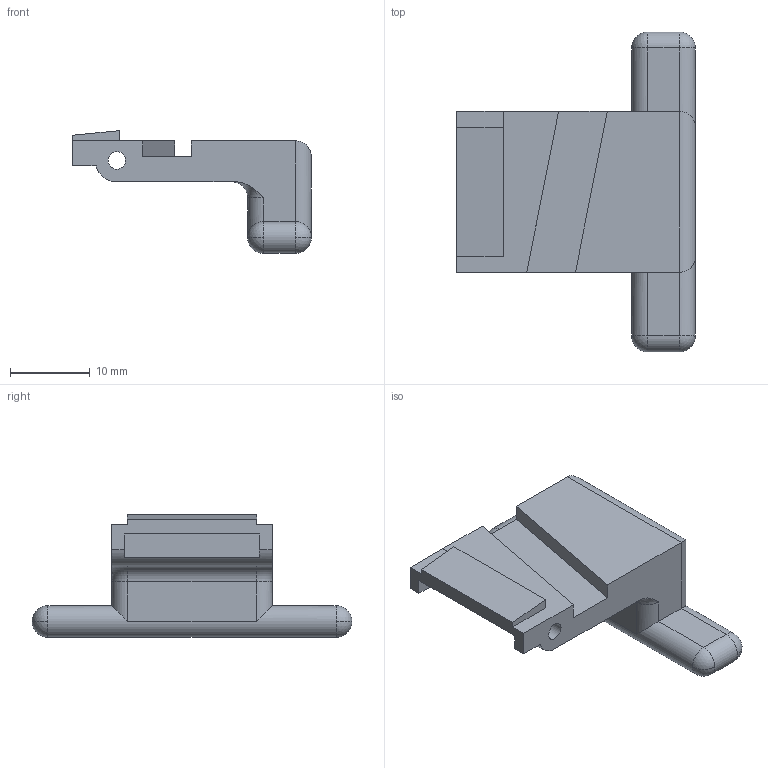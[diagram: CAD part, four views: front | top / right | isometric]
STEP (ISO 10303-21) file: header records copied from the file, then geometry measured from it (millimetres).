
FILE_DESCRIPTION(/* description */ (''),/* implementation_level */ '2;1');
FILE_NAME(/* name */ 'C:/Users/Andrew/Desktop/Kai Ceed/Kia Ceed Armrest Latch v2.step',/* time_stamp */ '2021-04-21T10:18:15+01:00',/* author */ (''),/* organization */ (''),/* preprocessor_version */ 'ST-DEVELOPER v18.1',/* originating_system */ 'Autodesk Translation Framework v10.6.0.1341',/* authorisation */ '');
FILE_SCHEMA (('AUTOMOTIVE_DESIGN { 1 0 10303 214 3 1 1 }'));
Length unit declared in the file: millimetre
Products named in the file (2): Kia Ceed Armrest Latch; Component1
Assembly tree (1 placements, depth 2):
  Kia Ceed Armrest Latch
    Component1
Bounding box: 30 x 40.21 x 15.44 mm (x, y, z)
Volume: 4566.4 mm3; surface area: 2732.4 mm2
Topology: 1 solids, 1 shells, 48 faces, 122 edges, 76 vertices
Faces by surface type: plane 26, cylinder 12, sphere 8, torus 2
Full cylindrical faces by diameter (mm): 2.2 x1
Entity records: 1507 total; most frequent: CARTESIAN_POINT 267, DIRECTION 260, ORIENTED_EDGE 244, EDGE_CURVE 122, AXIS2_PLACEMENT_3D 89, LINE 82, VECTOR 82, VERTEX_POINT 76
